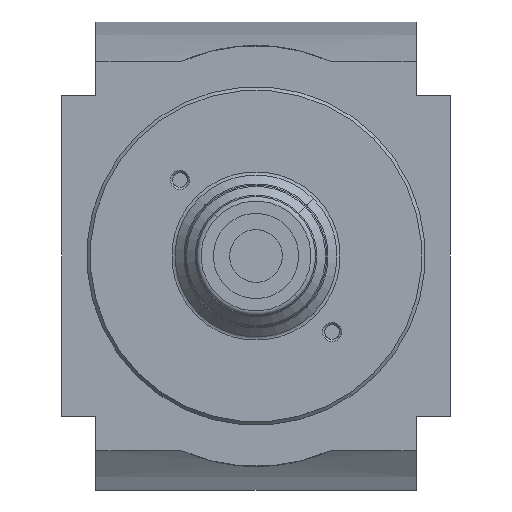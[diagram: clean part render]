
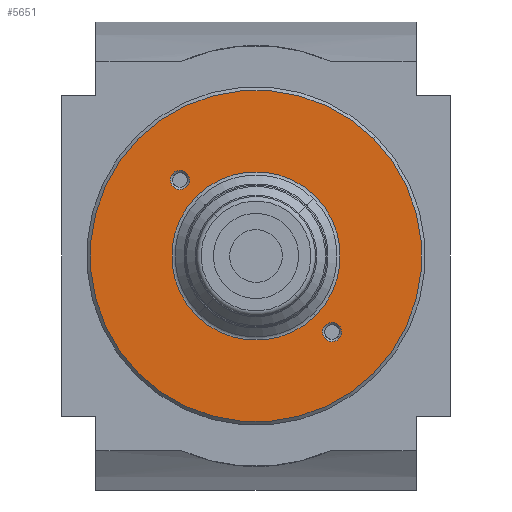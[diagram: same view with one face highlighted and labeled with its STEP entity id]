
A CAD part, front view. The second image highlights one B-rep face of the part: STEP entity #5651.
In plain terms, the highlighted planar face has unit normal (0, -1, 0).
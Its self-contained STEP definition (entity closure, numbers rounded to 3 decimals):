
#2082=CARTESIAN_POINT('',(0.,-54.,0.));
#2083=DIRECTION('',(0.,1.,0.));
#2084=DIRECTION('',(-0.707,0.,-0.707));
#2085=AXIS2_PLACEMENT_3D('',#2082,#2083,#2084);
#2090=CARTESIAN_POINT('',(0.,-54.,0.));
#2091=DIRECTION('',(0.,1.,0.));
#2092=DIRECTION('',(0.707,0.,0.707));
#2093=AXIS2_PLACEMENT_3D('',#2090,#2091,#2092);
#2098=CARTESIAN_POINT('',(-16.617,-54.,16.617));
#2099=DIRECTION('',(0.,-1.,0.));
#2100=DIRECTION('',(-0.591,0.,-0.806));
#2101=AXIS2_PLACEMENT_3D('',#2098,#2099,#2100);
#2106=CARTESIAN_POINT('',(-16.617,-54.,16.617));
#2107=DIRECTION('',(0.,-1.,0.));
#2108=DIRECTION('',(0.591,0.,0.806));
#2109=AXIS2_PLACEMENT_3D('',#2106,#2107,#2108);
#2114=CARTESIAN_POINT('',(16.617,-54.,-16.617));
#2115=DIRECTION('',(0.,-1.,0.));
#2116=DIRECTION('',(-0.591,0.,-0.806));
#2117=AXIS2_PLACEMENT_3D('',#2114,#2115,#2116);
#2122=CARTESIAN_POINT('',(16.617,-54.,-16.617));
#2123=DIRECTION('',(0.,-1.,0.));
#2124=DIRECTION('',(0.591,0.,0.806));
#2125=AXIS2_PLACEMENT_3D('',#2122,#2123,#2124);
#2130=CARTESIAN_POINT('',(0.,-54.,
0.));
#2131=DIRECTION('',(0.,-1.,0.));
#2132=DIRECTION('',(0.707,0.,-0.707));
#2133=AXIS2_PLACEMENT_3D('',#2130,#2131,#2132);
#2138=CARTESIAN_POINT('',(0.,-54.,
0.));
#2139=DIRECTION('',(0.,-1.,0.));
#2140=DIRECTION('',(0.707,0.,0.707));
#2141=AXIS2_PLACEMENT_3D('',#2138,#2139,#2140);
#2146=CARTESIAN_POINT('',(0.,-54.,
0.));
#2147=DIRECTION('',(0.,-1.,0.));
#2148=DIRECTION('',(-0.707,0.,0.707));
#2149=AXIS2_PLACEMENT_3D('',#2146,#2147,#2148);
#3309=CARTESIAN_POINT('',(-25.633,-54.,-25.633));
#3310=VERTEX_POINT('',#3309);
#3311=CARTESIAN_POINT('',(25.633,-54.,25.633));
#3312=VERTEX_POINT('',#3311);
#3313=CARTESIAN_POINT('',(-17.859,-54.,14.924));
#3314=CARTESIAN_POINT('',(-15.375,-54.,18.31));
#3315=VERTEX_POINT('',#3313);
#3316=VERTEX_POINT('',#3314);
#3317=CARTESIAN_POINT('',(15.375,-54.,-18.31));
#3318=CARTESIAN_POINT('',(17.859,-54.,-14.924));
#3319=VERTEX_POINT('',#3317);
#3320=VERTEX_POINT('',#3318);
#3321=CARTESIAN_POINT('',(13.021,-54.,
-13.021));
#3322=CARTESIAN_POINT('',(13.021,-54.,13.021));
#3323=VERTEX_POINT('',#3321);
#3324=VERTEX_POINT('',#3322);
#3325=CARTESIAN_POINT('',(-13.021,-54.,
13.021));
#3326=VERTEX_POINT('',#3325);
#5621=CARTESIAN_POINT('',(0.,-54.,0.));
#5622=DIRECTION('',(0.,-1.,0.));
#5623=DIRECTION('',(-0.707,0.,0.707));
#5624=AXIS2_PLACEMENT_3D('',#5621,#5622,#5623);
#5625=PLANE('16228',#5624);
#5627=ORIENTED_EDGE('16125',*,*,#5626,.T.);
#5628=ORIENTED_EDGE('16126',*,*,#5599,.T.);
#5629=EDGE_LOOP('16228',(#5627,#5628));
#5630=FACE_OUTER_BOUND('16228',#5629,.F.);
#5632=ORIENTED_EDGE('16127',*,*,#5631,.T.);
#5634=ORIENTED_EDGE('16128',*,*,#5633,.T.);
#5635=EDGE_LOOP('16228',(#5632,#5634));
#5636=FACE_BOUND('16228',#5635,.F.);
#5638=ORIENTED_EDGE('16129',*,*,#5637,.T.);
#5640=ORIENTED_EDGE('16130',*,*,#5639,.T.);
#5641=EDGE_LOOP('16228',(#5638,#5640));
#5642=FACE_BOUND('16228',#5641,.F.);
#5644=ORIENTED_EDGE('16131',*,*,#5643,.T.);
#5646=ORIENTED_EDGE('16132',*,*,#5645,.T.);
#5648=ORIENTED_EDGE('16133',*,*,#5647,.T.);
#5649=EDGE_LOOP('16228',(#5644,#5646,#5648));
#5650=FACE_BOUND('16228',#5649,.F.);
#5651=ADVANCED_FACE('16228',(#5630,#5636,#5642,#5650),#5625,.T.);
#2086=CIRCLE('16125',#2085,36.25);
#2094=CIRCLE('16126',#2093,36.25);
#2102=CIRCLE('16127',#2101,2.1);
#2110=CIRCLE('16128',#2109,2.1);
#2118=CIRCLE('16129',#2117,2.1);
#2126=CIRCLE('16130',#2125,2.1);
#2134=CIRCLE('16131',#2133,18.414);
#2142=CIRCLE('16132',#2141,18.414);
#2150=CIRCLE('16133',#2149,18.414);
#5599=EDGE_CURVE('16126',#3312,#3310,#2094,.T.);
#5626=EDGE_CURVE('16125',#3310,#3312,#2086,.T.);
#5631=EDGE_CURVE('16127',#3315,#3316,#2102,.T.);
#5633=EDGE_CURVE('16128',#3316,#3315,#2110,.T.);
#5637=EDGE_CURVE('16129',#3319,#3320,#2118,.T.);
#5639=EDGE_CURVE('16130',#3320,#3319,#2126,.T.);
#5643=EDGE_CURVE('16131',#3323,#3324,#2134,.T.);
#5645=EDGE_CURVE('16132',#3324,#3326,#2142,.T.);
#5647=EDGE_CURVE('16133',#3326,#3323,#2150,.T.);
